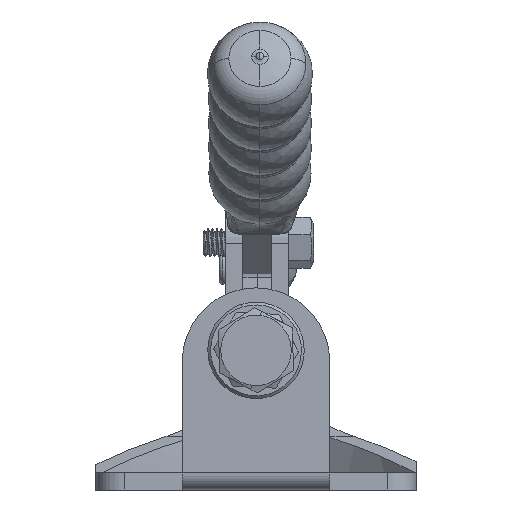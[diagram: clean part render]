
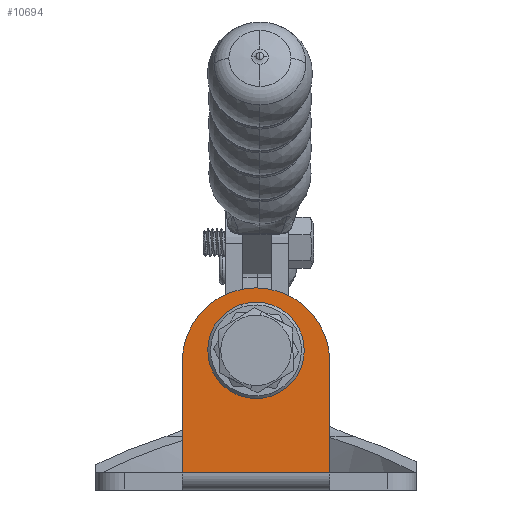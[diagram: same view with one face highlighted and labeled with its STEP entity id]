
A CAD part, left-side view. The second image highlights one B-rep face of the part: STEP entity #10694.
In plain terms, the highlighted planar face has unit normal (-1, 0, 0).
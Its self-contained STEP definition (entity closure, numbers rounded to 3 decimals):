
#515 = PLANE ( 'NONE',  #41474 ) ;
#834 = CIRCLE ( 'NONE', #25511, 13. ) ;
#1037 = CIRCLE ( 'NONE', #39114, 7.25 ) ;
#1652 = AXIS2_PLACEMENT_3D ( 'NONE', #26190, #6605, #29472 ) ;
#3130 = EDGE_CURVE ( 'NONE', #10497, #32731, #9930, .T. ) ;
#3794 = CARTESIAN_POINT ( 'NONE',  ( -39., 13., 3. ) ) ;
#4228 = VECTOR ( 'NONE', #33011, 1000. ) ;
#5825 = EDGE_LOOP ( 'NONE', ( #27942, #41384 ) ) ;
#5852 = FACE_OUTER_BOUND ( 'NONE', #28408, .T. ) ;
#6605 = DIRECTION ( 'NONE',  ( -1., 0., 0. ) ) ;
#9865 = CARTESIAN_POINT ( 'NONE',  ( -39., 13., 3. ) ) ;
#9930 = LINE ( 'NONE', #12283, #18666 ) ;
#10125 = CARTESIAN_POINT ( 'NONE',  ( -39., -13., 3. ) ) ;
#10497 = VERTEX_POINT ( 'NONE', #32310 ) ;
#10694 = ADVANCED_FACE ( 'NONE', ( #32986, #5852 ), #515, .F. ) ;
#12283 = CARTESIAN_POINT ( 'NONE',  ( -39., -13., 3. ) ) ;
#13659 = DIRECTION ( 'NONE',  ( 0., 1., 0. ) ) ;
#13944 = ORIENTED_EDGE ( 'NONE', *, *, #3130, .F. ) ;
#14952 = CARTESIAN_POINT ( 'NONE',  ( -39., 13., 22.6 ) ) ;
#15796 = CIRCLE ( 'NONE', #1652, 7.25 ) ;
#15834 = ORIENTED_EDGE ( 'NONE', *, *, #33645, .T. ) ;
#16196 = DIRECTION ( 'NONE',  ( 1., 0., 0. ) ) ;
#16891 = CARTESIAN_POINT ( 'NONE',  ( -39., -13., 3. ) ) ;
#17187 = CARTESIAN_POINT ( 'NONE',  ( -39., 13., 3. ) ) ;
#18520 = DIRECTION ( 'NONE',  ( -1., 0., 0. ) ) ;
#18666 = VECTOR ( 'NONE', #22055, 1000. ) ;
#19028 = LINE ( 'NONE', #17187, #33338 ) ;
#21042 = EDGE_CURVE ( 'NONE', #34761, #35630, #15796, .T. ) ;
#21817 = VERTEX_POINT ( 'NONE', #14952 ) ;
#22055 = DIRECTION ( 'NONE',  ( 0., 0., -1. ) ) ;
#25511 = AXIS2_PLACEMENT_3D ( 'NONE', #35809, #16196, #39109 ) ;
#26190 = CARTESIAN_POINT ( 'NONE',  ( -39., 0., 24.6 ) ) ;
#27429 = CARTESIAN_POINT ( 'NONE',  ( -39., 7.25, 24.6 ) ) ;
#27942 = ORIENTED_EDGE ( 'NONE', *, *, #21042, .F. ) ;
#28408 = EDGE_LOOP ( 'NONE', ( #13944, #39194, #15834, #31084 ) ) ;
#28767 = EDGE_CURVE ( 'NONE', #32622, #32731, #38045, .T. ) ;
#29472 = DIRECTION ( 'NONE',  ( 0., -1., 0. ) ) ;
#31084 = ORIENTED_EDGE ( 'NONE', *, *, #28767, .T. ) ;
#31661 = CARTESIAN_POINT ( 'NONE',  ( -39., -7.25, 24.6 ) ) ;
#32310 = CARTESIAN_POINT ( 'NONE',  ( -39., -13., 22.6 ) ) ;
#32622 = VERTEX_POINT ( 'NONE', #9865 ) ;
#32731 = VERTEX_POINT ( 'NONE', #16891 ) ;
#32986 = FACE_BOUND ( 'NONE', #5825, .T. ) ;
#33011 = DIRECTION ( 'NONE',  ( 0., -1., 0. ) ) ;
#33272 = DIRECTION ( 'NONE',  ( 1., 0., 0. ) ) ;
#33338 = VECTOR ( 'NONE', #36792, 1000. ) ;
#33645 = EDGE_CURVE ( 'NONE', #21817, #32622, #19028, .T. ) ;
#34761 = VERTEX_POINT ( 'NONE', #31661 ) ;
#35630 = VERTEX_POINT ( 'NONE', #27429 ) ;
#35809 = CARTESIAN_POINT ( 'NONE',  ( -39., 0., 22.6 ) ) ;
#36367 = EDGE_CURVE ( 'NONE', #35630, #34761, #1037, .T. ) ;
#36792 = DIRECTION ( 'NONE',  ( 0., 0., -1. ) ) ;
#38045 = LINE ( 'NONE', #10125, #4228 ) ;
#38136 = CARTESIAN_POINT ( 'NONE',  ( -39., 0., 24.6 ) ) ;
#39109 = DIRECTION ( 'NONE',  ( 0., -1., 0. ) ) ;
#39114 = AXIS2_PLACEMENT_3D ( 'NONE', #38136, #18520, #41426 ) ;
#39194 = ORIENTED_EDGE ( 'NONE', *, *, #40771, .F. ) ;
#40771 = EDGE_CURVE ( 'NONE', #21817, #10497, #834, .T. ) ;
#41384 = ORIENTED_EDGE ( 'NONE', *, *, #36367, .F. ) ;
#41426 = DIRECTION ( 'NONE',  ( 0., -1., 0. ) ) ;
#41474 = AXIS2_PLACEMENT_3D ( 'NONE', #3794, #33272, #13659 ) ;
